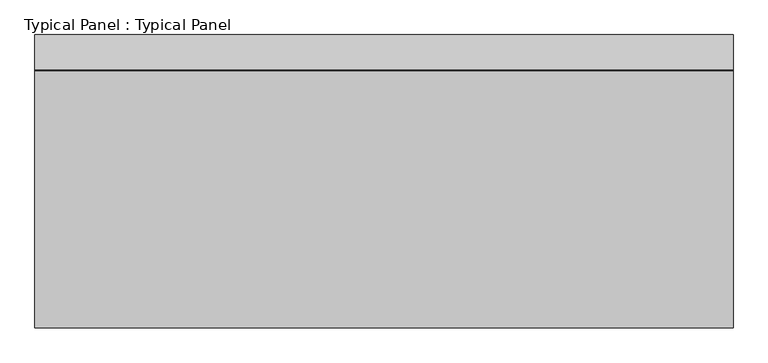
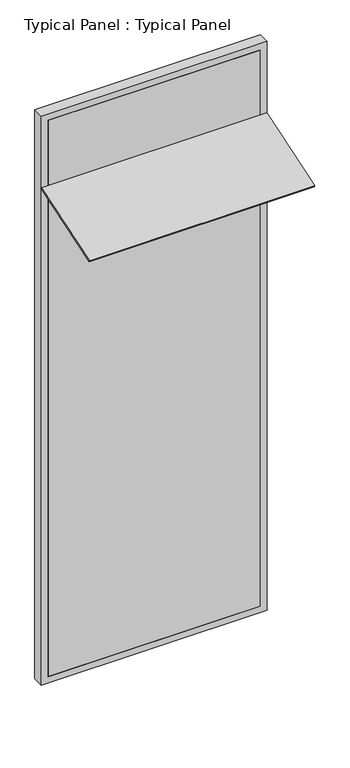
"""IFC4 building model written with IfcOpenShell, lengths in millimetres: plate geometry, Typical Panel : Typical Panel."""

from ifc_helpers import new_model, si_unit, frame, origin, place, context, project, spatial, polyline, outline, extrude, source, transform, mapped, element, save


def typical_panel_typical_panel_78da2cf4(model_context):
    return source(origin(), model_context, "Body", "SweptSolid", [
        extrude(outline(polyline([(0.0, -579.9999999), (0.0, 0.0), (1500.0, 0.0), (1500.0, -579.9999999), (0.0, -579.9999999)])), frame((750.0, -553.5226095, 3311.2595781), z_axis=(0.0, -0.3090169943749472, 0.9510565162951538), x_axis=(-1.0, 0.0, 0.0)), (0.0, 0.0, 1.0), 10.0),
        extrude(outline(polyline([(0.0, -750.0), (0.0, 750.0), (4000.0, 750.0), (4000.0, -750.0), (0.0, -750.0)]), holes=[polyline([(45.0, 705.0), (45.0, -705.0), (3955.0, -705.0), (3955.0, 705.0), (45.0, 705.0)])]), frame((0.0, -1.5797986, 0.0), z_axis=(0.0, 1.0, 0.0), x_axis=(0.0, 0.0, 1.0)), (0.0, 0.0, 1.0), 75.0),
        extrude(outline(polyline([(705.0, -1.5797986), (-705.0, -1.5797986), (-705.0, 13.4202014), (705.0, 13.4202014), (705.0, -1.5797986)])), frame((0.0, 0.0, 45.0), z_axis=(0.0, 0.0, 1.0), x_axis=(1.0, 0.0, 0.0)), (0.0, 0.0, 1.0), 3910.0),
    ])


if __name__ == "__main__":
    model = new_model("IFC4")
    model_context = context("Model", 3, world=origin())
    ifc_project = project(units=[si_unit("LENGTHUNIT", "METRE", prefix="MILLI")], contexts=[model_context])
    site = spatial("IfcSite", under=ifc_project)
    building = spatial("IfcBuilding", under=site)
    placement = place(None, origin())
    typical_panel_typical_panel_shape = typical_panel_typical_panel_78da2cf4(model_context)
    element("IfcPlate", 1, ObjectType="Typical Panel : Typical Panel", at=placement, inside=building, context=model_context, shape_type="MappedRepresentation", body=[
        mapped(typical_panel_typical_panel_shape, transform((0.0, 0.0, 0.0), x_axis=(1.0, 0.0, 0.0), y_axis=(0.0, 1.0, 0.0), z_axis=(0.0, 0.0, 1.0))),
    ])
    save(model, "model.ifc")
